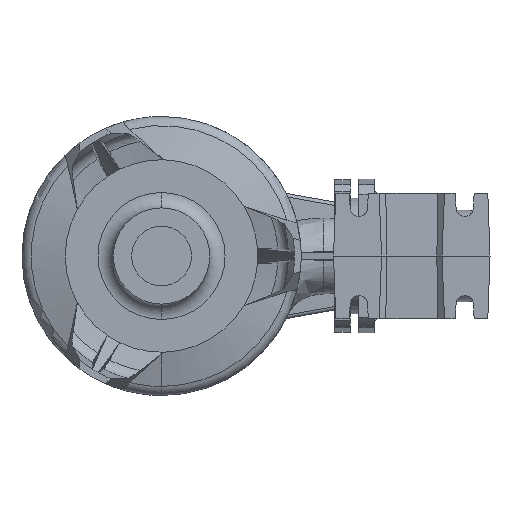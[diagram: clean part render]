
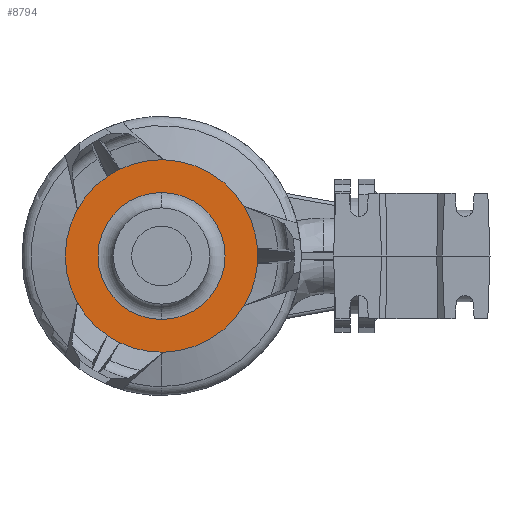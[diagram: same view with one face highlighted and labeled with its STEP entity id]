
A CAD part, front view. The second image highlights one B-rep face of the part: STEP entity #8794.
In plain terms, the highlighted planar face has unit normal (0, -1, 0).
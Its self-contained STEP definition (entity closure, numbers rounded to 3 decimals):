
#44 = CIRCLE ( 'NONE', #4428, 100. ) ;
#121 = EDGE_CURVE ( 'NONE', #7561, #15774, #10799, .T. ) ;
#250 = CIRCLE ( 'NONE', #18075, 100. ) ;
#334 = AXIS2_PLACEMENT_3D ( 'NONE', #12690, #18113, #16926 ) ;
#576 = CARTESIAN_POINT ( 'NONE',  ( -274.678, -178.993, 0. ) ) ;
#614 = DIRECTION ( 'NONE',  ( 0., 0., 1. ) ) ;
#924 = CARTESIAN_POINT ( 'NONE',  ( -188.97, -178.993, 51.519 ) ) ;
#956 = AXIS2_PLACEMENT_3D ( 'NONE', #11983, #14837, #2318 ) ;
#1068 = CARTESIAN_POINT ( 'NONE',  ( -188.97, -178.993, -51.519 ) ) ;
#1072 = CARTESIAN_POINT ( 'NONE',  ( -274.678, -178.993, 0. ) ) ;
#1297 = FACE_BOUND ( 'NONE', #11112, .T. ) ;
#1558 = DIRECTION ( 'NONE',  ( 0., 0., -1. ) ) ;
#1647 = AXIS2_PLACEMENT_3D ( 'NONE', #16667, #13828, #17038 ) ;
#1702 = CARTESIAN_POINT ( 'NONE',  ( -274.678, -178.993, 0. ) ) ;
#1879 = EDGE_CURVE ( 'NONE', #5271, #8406, #10566, .T. ) ;
#1931 = VERTEX_POINT ( 'NONE', #10087 ) ;
#2068 = EDGE_CURVE ( 'NONE', #17051, #12922, #9122, .T. ) ;
#2103 = DIRECTION ( 'NONE',  ( 0., -1., 0. ) ) ;
#2123 = CARTESIAN_POINT ( 'NONE',  ( -274.678, -178.993, 0. ) ) ;
#2214 = EDGE_CURVE ( 'NONE', #12171, #1931, #12305, .T. ) ;
#2298 = AXIS2_PLACEMENT_3D ( 'NONE', #13341, #10495, #2463 ) ;
#2318 = DIRECTION ( 'NONE',  ( 0., 0., 1. ) ) ;
#2395 = DIRECTION ( 'NONE',  ( 0., 0., -1. ) ) ;
#2463 = DIRECTION ( 'NONE',  ( 0., 0., -1. ) ) ;
#2662 = ORIENTED_EDGE ( 'NONE', *, *, #18014, .T. ) ;
#2702 = AXIS2_PLACEMENT_3D ( 'NONE', #576, #5967, #14212 ) ;
#2773 = ORIENTED_EDGE ( 'NONE', *, *, #121, .F. ) ;
#3152 = CIRCLE ( 'NONE', #4892, 100. ) ;
#3303 = EDGE_CURVE ( 'NONE', #7561, #9936, #7902, .T. ) ;
#3349 = VERTEX_POINT ( 'NONE', #15068 ) ;
#3363 = CARTESIAN_POINT ( 'NONE',  ( -174.958, -178.993, 7.483 ) ) ;
#3543 = CARTESIAN_POINT ( 'NONE',  ( -272.914, -178.993, -99.984 ) ) ;
#3742 = DIRECTION ( 'NONE',  ( 0., -1., 0. ) ) ;
#3752 = CIRCLE ( 'NONE', #2298, 66. ) ;
#3874 = CARTESIAN_POINT ( 'NONE',  ( -274.678, -178.993, 100. ) ) ;
#3947 = CARTESIAN_POINT ( 'NONE',  ( -274.678, -178.993, 0. ) ) ;
#4428 = AXIS2_PLACEMENT_3D ( 'NONE', #17950, #17584, #16391 ) ;
#4440 = CIRCLE ( 'NONE', #334, 100. ) ;
#4781 = CARTESIAN_POINT ( 'NONE',  ( -272.914, -178.993, 99.984 ) ) ;
#4892 = AXIS2_PLACEMENT_3D ( 'NONE', #2123, #10338, #12053 ) ;
#4962 = ORIENTED_EDGE ( 'NONE', *, *, #3303, .T. ) ;
#5190 = DIRECTION ( 'NONE',  ( 0., 1., 0. ) ) ;
#5269 = DIRECTION ( 'NONE',  ( 0., 0., -1. ) ) ;
#5271 = VERTEX_POINT ( 'NONE', #1068 ) ;
#5443 = VERTEX_POINT ( 'NONE', #7357 ) ;
#5967 = DIRECTION ( 'NONE',  ( 0., 1., 0. ) ) ;
#6223 = ORIENTED_EDGE ( 'NONE', *, *, #12555, .T. ) ;
#6290 = CARTESIAN_POINT ( 'NONE',  ( -274.678, -178.993, 0. ) ) ;
#6481 = CARTESIAN_POINT ( 'NONE',  ( -174.958, -178.993, -7.483 ) ) ;
#6549 = DIRECTION ( 'NONE',  ( 0., -1., 0. ) ) ;
#6582 = CARTESIAN_POINT ( 'NONE',  ( -362.148, -178.993, 48.465 ) ) ;
#7071 = ORIENTED_EDGE ( 'NONE', *, *, #7103, .T. ) ;
#7103 = EDGE_CURVE ( 'NONE', #9936, #12171, #11979, .T. ) ;
#7290 = ORIENTED_EDGE ( 'NONE', *, *, #2214, .T. ) ;
#7357 = CARTESIAN_POINT ( 'NONE',  ( -362.148, -178.993, -48.465 ) ) ;
#7561 = VERTEX_POINT ( 'NONE', #4781 ) ;
#7636 = EDGE_CURVE ( 'NONE', #15774, #12922, #44, .T. ) ;
#7743 = CARTESIAN_POINT ( 'NONE',  ( -274.678, -178.993, 0. ) ) ;
#7902 = CIRCLE ( 'NONE', #14646, 100. ) ;
#8015 = CARTESIAN_POINT ( 'NONE',  ( -274.678, -178.993, -66. ) ) ;
#8174 = EDGE_CURVE ( 'NONE', #5443, #15721, #4440, .T. ) ;
#8406 = VERTEX_POINT ( 'NONE', #3543 ) ;
#8794 = ADVANCED_FACE ( 'NONE', ( #1297, #15291 ), #12531, .F. ) ;
#8967 = DIRECTION ( 'NONE',  ( 0., 0., -1. ) ) ;
#9122 = CIRCLE ( 'NONE', #956, 100. ) ;
#9292 = CIRCLE ( 'NONE', #13685, 66. ) ;
#9329 = DIRECTION ( 'NONE',  ( 0., -1., 0. ) ) ;
#9848 = VERTEX_POINT ( 'NONE', #10897 ) ;
#9906 = ORIENTED_EDGE ( 'NONE', *, *, #15759, .T. ) ;
#9936 = VERTEX_POINT ( 'NONE', #3874 ) ;
#10032 = VERTEX_POINT ( 'NONE', #16869 ) ;
#10087 = CARTESIAN_POINT ( 'NONE',  ( -331.018, -178.993, 82.618 ) ) ;
#10104 = DIRECTION ( 'NONE',  ( 0., -1., 0. ) ) ;
#10111 = CIRCLE ( 'NONE', #12748, 100. ) ;
#10338 = DIRECTION ( 'NONE',  ( 0., 1., 0. ) ) ;
#10495 = DIRECTION ( 'NONE',  ( 0., 1., 0. ) ) ;
#10566 = CIRCLE ( 'NONE', #2702, 100. ) ;
#10581 = DIRECTION ( 'NONE',  ( 0., 0., 1. ) ) ;
#10799 = CIRCLE ( 'NONE', #13431, 100. ) ;
#10897 = CARTESIAN_POINT ( 'NONE',  ( -318.057, -178.993, -90.101 ) ) ;
#11051 = CARTESIAN_POINT ( 'NONE',  ( -274.678, -178.993, 0. ) ) ;
#11112 = EDGE_LOOP ( 'NONE', ( #16167, #15397 ) ) ;
#11483 = ORIENTED_EDGE ( 'NONE', *, *, #8174, .F. ) ;
#11526 = ORIENTED_EDGE ( 'NONE', *, *, #2068, .T. ) ;
#11613 = DIRECTION ( 'NONE',  ( 0., -1., 0. ) ) ;
#11929 = ORIENTED_EDGE ( 'NONE', *, *, #1879, .F. ) ;
#11979 = CIRCLE ( 'NONE', #15503, 100. ) ;
#11983 = CARTESIAN_POINT ( 'NONE',  ( -274.678, -178.993, 0. ) ) ;
#12053 = DIRECTION ( 'NONE',  ( 0., 0., -1. ) ) ;
#12171 = VERTEX_POINT ( 'NONE', #16382 ) ;
#12305 = CIRCLE ( 'NONE', #16678, 100. ) ;
#12531 = PLANE ( 'NONE',  #1647 ) ;
#12555 = EDGE_CURVE ( 'NONE', #1931, #15721, #250, .T. ) ;
#12557 = EDGE_CURVE ( 'NONE', #16106, #3349, #9292, .T. ) ;
#12614 = EDGE_CURVE ( 'NONE', #3349, #16106, #3752, .T. ) ;
#12645 = EDGE_CURVE ( 'NONE', #10032, #9848, #16317, .T. ) ;
#12690 = CARTESIAN_POINT ( 'NONE',  ( -274.678, -178.993, 0. ) ) ;
#12748 = AXIS2_PLACEMENT_3D ( 'NONE', #3947, #9329, #2395 ) ;
#12922 = VERTEX_POINT ( 'NONE', #3363 ) ;
#13341 = CARTESIAN_POINT ( 'NONE',  ( -274.678, -178.993, 0. ) ) ;
#13425 = DIRECTION ( 'NONE',  ( 0., 0., -1. ) ) ;
#13431 = AXIS2_PLACEMENT_3D ( 'NONE', #11051, #13713, #1558 ) ;
#13685 = AXIS2_PLACEMENT_3D ( 'NONE', #6290, #5190, #13425 ) ;
#13713 = DIRECTION ( 'NONE',  ( 0., 1., 0. ) ) ;
#13770 = ORIENTED_EDGE ( 'NONE', *, *, #17055, .F. ) ;
#13828 = DIRECTION ( 'NONE',  ( 0., 1., 0. ) ) ;
#14212 = DIRECTION ( 'NONE',  ( 0., 0., -1. ) ) ;
#14435 = CARTESIAN_POINT ( 'NONE',  ( -274.678, -178.993, 0. ) ) ;
#14468 = EDGE_LOOP ( 'NONE', ( #17817, #2773, #4962, #7071, #7290, #6223, #11483, #9906, #16915, #2662, #11929, #13770, #11526 ) ) ;
#14646 = AXIS2_PLACEMENT_3D ( 'NONE', #1072, #6549, #5269 ) ;
#14837 = DIRECTION ( 'NONE',  ( 0., -1., 0. ) ) ;
#14978 = CIRCLE ( 'NONE', #17337, 100. ) ;
#14985 = CARTESIAN_POINT ( 'NONE',  ( -274.678, -178.993, 0. ) ) ;
#15068 = CARTESIAN_POINT ( 'NONE',  ( -274.678, -178.993, 66. ) ) ;
#15291 = FACE_OUTER_BOUND ( 'NONE', #14468, .T. ) ;
#15397 = ORIENTED_EDGE ( 'NONE', *, *, #12614, .T. ) ;
#15503 = AXIS2_PLACEMENT_3D ( 'NONE', #1702, #10104, #15699 ) ;
#15699 = DIRECTION ( 'NONE',  ( 0., 0., -1. ) ) ;
#15721 = VERTEX_POINT ( 'NONE', #6582 ) ;
#15759 = EDGE_CURVE ( 'NONE', #5443, #10032, #10111, .T. ) ;
#15774 = VERTEX_POINT ( 'NONE', #924 ) ;
#16033 = AXIS2_PLACEMENT_3D ( 'NONE', #7743, #2103, #10581 ) ;
#16106 = VERTEX_POINT ( 'NONE', #8015 ) ;
#16167 = ORIENTED_EDGE ( 'NONE', *, *, #12557, .T. ) ;
#16317 = CIRCLE ( 'NONE', #16033, 100. ) ;
#16382 = CARTESIAN_POINT ( 'NONE',  ( -318.057, -178.993, 90.101 ) ) ;
#16391 = DIRECTION ( 'NONE',  ( 0., 0., -1. ) ) ;
#16667 = CARTESIAN_POINT ( 'NONE',  ( -340.678, -178.993, 0. ) ) ;
#16678 = AXIS2_PLACEMENT_3D ( 'NONE', #14435, #17197, #614 ) ;
#16699 = CARTESIAN_POINT ( 'NONE',  ( -274.678, -178.993, 0. ) ) ;
#16869 = CARTESIAN_POINT ( 'NONE',  ( -331.018, -178.993, -82.618 ) ) ;
#16915 = ORIENTED_EDGE ( 'NONE', *, *, #12645, .T. ) ;
#16926 = DIRECTION ( 'NONE',  ( 0., 0., -1. ) ) ;
#17038 = DIRECTION ( 'NONE',  ( 0., 0., -1. ) ) ;
#17051 = VERTEX_POINT ( 'NONE', #6481 ) ;
#17055 = EDGE_CURVE ( 'NONE', #17051, #5271, #3152, .T. ) ;
#17197 = DIRECTION ( 'NONE',  ( 0., -1., 0. ) ) ;
#17337 = AXIS2_PLACEMENT_3D ( 'NONE', #16699, #11613, #8967 ) ;
#17584 = DIRECTION ( 'NONE',  ( 0., 1., 0. ) ) ;
#17736 = DIRECTION ( 'NONE',  ( 0., 0., -1. ) ) ;
#17817 = ORIENTED_EDGE ( 'NONE', *, *, #7636, .F. ) ;
#17950 = CARTESIAN_POINT ( 'NONE',  ( -274.678, -178.993, 0. ) ) ;
#18014 = EDGE_CURVE ( 'NONE', #9848, #8406, #14978, .T. ) ;
#18075 = AXIS2_PLACEMENT_3D ( 'NONE', #14985, #3742, #17736 ) ;
#18113 = DIRECTION ( 'NONE',  ( 0., 1., 0. ) ) ;
